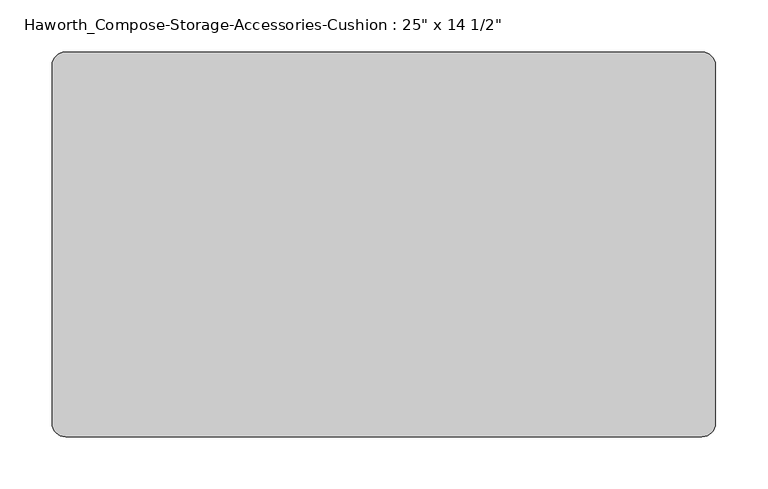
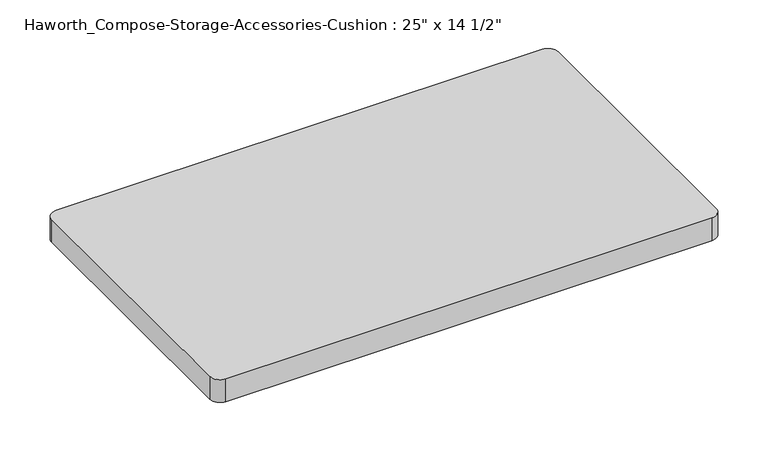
"""IFC4 building model written with IfcOpenShell, lengths in millimetres: furniture geometry."""

from ifc_helpers import new_model, si_unit, point, frame, frame_2d, origin, place, context, project, spatial, polyline, circle_curve, trimmed, segment, composite_curve, outline, extrude, source, transform, mapped, element, save


def furniture_e437c928(model_context):
    return source(origin(), model_context, "Body", "SweptSolid", [
        extrude(outline(composite_curve([segment(polyline([(304.8, -184.15), (-304.8, -184.15)]), True, "CONTINUOUS"), segment(trimmed(circle_curve(frame_2d((-304.8, -171.45)), 12.7), [point((-304.8, -184.15))], [point((-317.5, -171.45))], False, "CARTESIAN"), True, "CONTINUOUS"), segment(polyline([(-317.5, -171.45), (-317.5, 171.45)]), True, "CONTINUOUS"), segment(trimmed(circle_curve(frame_2d((-304.8, 171.45)), 12.7), [point((-317.5, 171.45))], [point((-304.8, 184.15))], False, "CARTESIAN"), True, "CONTINUOUS"), segment(polyline([(-304.8, 184.15), (304.8, 184.15)]), True, "CONTINUOUS"), segment(trimmed(circle_curve(frame_2d((304.8, 171.45)), 12.7), [point((304.8, 184.15))], [point((317.5, 171.45))], False, "CARTESIAN"), True, "CONTINUOUS"), segment(polyline([(317.5, 171.45), (317.5, -171.45)]), True, "CONTINUOUS"), segment(trimmed(circle_curve(frame_2d((304.8, -171.45)), 12.7), [point((317.5, -171.45))], [point((304.8, -184.15))], False, "CARTESIAN"), True, "CONTINUOUS")], self_intersect=False)), frame((0.0, 0.0, 673.1), z_axis=(0.0, 0.0, 1.0), x_axis=(1.0, 0.0, 0.0)), (0.0, 0.0, 1.0), 30.1625),
    ])


if __name__ == "__main__":
    model = new_model("IFC4")
    model_context = context("Model", 3, world=origin())
    ifc_project = project(units=[si_unit("LENGTHUNIT", "METRE", prefix="MILLI")], contexts=[model_context])
    site = spatial("IfcSite", under=ifc_project)
    building = spatial("IfcBuilding", under=site)
    placement = place(None, origin())
    furniture_shape = furniture_e437c928(model_context)
    element("IfcFurniture", 1, ObjectType="Haworth_Compose-Storage-Accessories-Cushion : 25\" x 14 1/2\"", at=placement, inside=building, context=model_context, shape_type="MappedRepresentation", body=[
        mapped(furniture_shape, transform((0.0, 0.0, 0.0), x_axis=(1.0, 0.0, 0.0), y_axis=(0.0, 1.0, 0.0), z_axis=(0.0, 0.0, 1.0))),
    ])
    save(model, "model.ifc")
